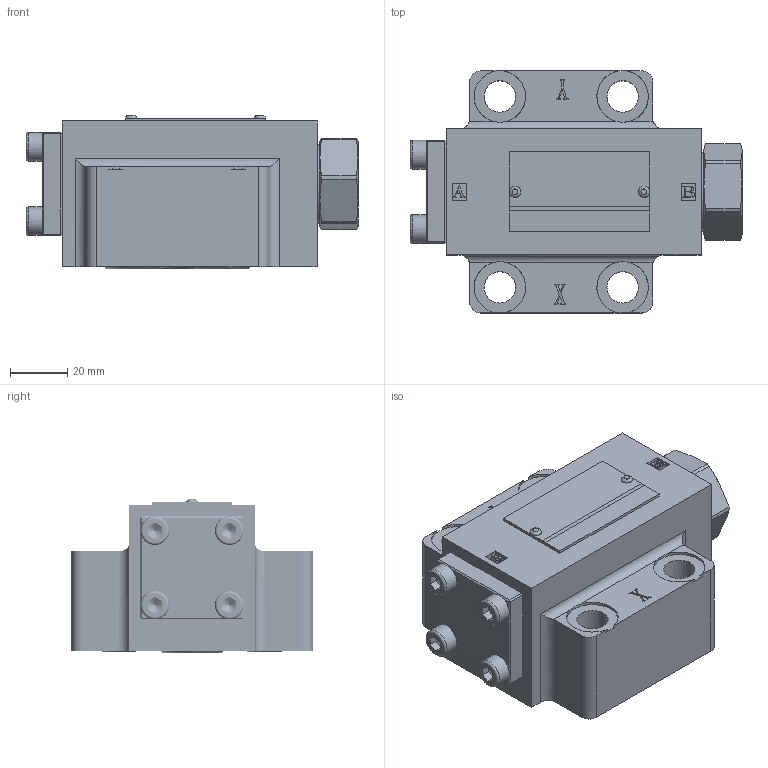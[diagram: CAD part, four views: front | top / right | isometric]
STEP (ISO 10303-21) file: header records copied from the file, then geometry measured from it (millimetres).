
FILE_DESCRIPTION(/* description */ (''),/* implementation_level */ '2;1');
FILE_NAME(/* name */ 'SVSL10P-4XJ液控单向阀.prt.stp',/* time_stamp */ '2022-03-30T19:20:43+08:00',/* author */ (''),/* organization */ (''),/* preprocessor_version */ 'ST-DEVELOPER v16.7',/* originating_system */ 'SIEMENS PLM Software NX 12.0',/* authorisation */ '');
FILE_SCHEMA (('AUTOMOTIVE_DESIGN { 1 0 10303 214 3 1 1 1 }'));
Products named in the file (1): SVSL10P-4XJ液控单向阀
Bounding box: 116 x 84.5 x 53.62 mm (x, y, z)
Volume: 297688.6 mm3; surface area: 58929 mm2
Topology: 14 solids, 15 shells, 575 faces, 1448 edges, 915 vertices
Faces by surface type: plane 247, cylinder 177, cone 50, bspline 44, extrusion 35, torus 22
Full cylindrical faces by diameter (mm): 1.8 x2, 1.9 x4, 5 x56, 6 x1, 6.6 x4, 10 x4, 11 x4, 12.2 x2, 15 x2, 21.8 x2, 22 x1, 24.8 x1, 27.5 x2, 36 x1
Entity records: 52359 total; most frequent: CARTESIAN_POINT 39970, ORIENTED_EDGE 2290, DIRECTION 2113, EDGE_CURVE 1145, VERTEX_POINT 776, AXIS2_PLACEMENT_3D 756, EDGE_LOOP 639, VECTOR 601
